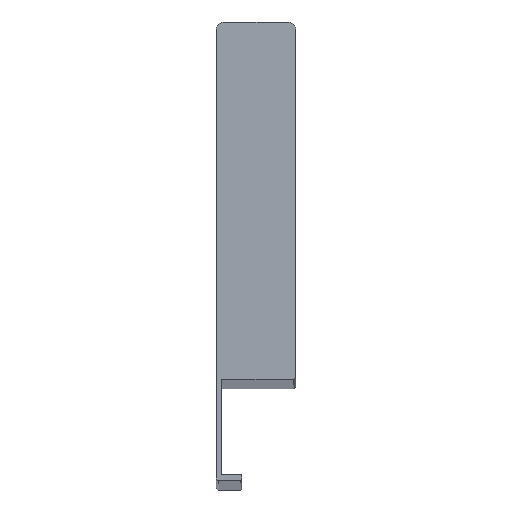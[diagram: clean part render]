
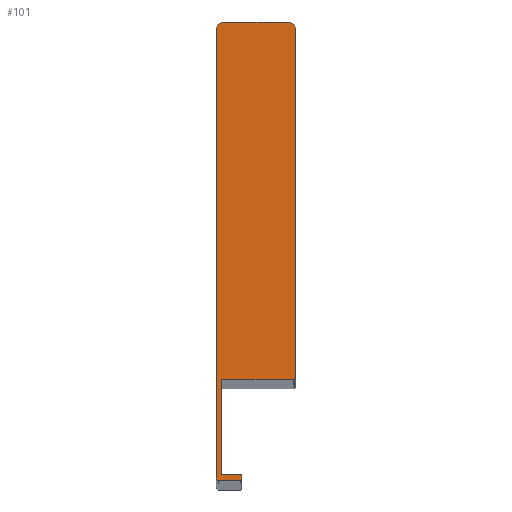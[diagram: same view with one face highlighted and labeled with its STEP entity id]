
A CAD part, top view. The second image highlights one B-rep face of the part: STEP entity #101.
In plain terms, the highlighted planar face has unit normal (0, 0, 1).
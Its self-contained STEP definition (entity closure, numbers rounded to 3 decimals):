
#35 = AXIS2_PLACEMENT_3D ( 'NONE', #488, #497, #441 ) ;
#48 = AXIS2_PLACEMENT_3D ( 'NONE', #404, #406, #408 ) ;
#49 = AXIS2_PLACEMENT_3D ( 'NONE', #532, #533, #555 ) ;
#50 = AXIS2_PLACEMENT_3D ( 'NONE', #548, #543, #544 ) ;
#51 = AXIS2_PLACEMENT_3D ( 'NONE', #383, #402, #405 ) ;
#53 = AXIS2_PLACEMENT_3D ( 'NONE', #515, #566, #370 ) ;
#54 = AXIS2_PLACEMENT_3D ( 'NONE', #491, #565, #552 ) ;
#55 = EDGE_CURVE ( 'NONE', #244, #246, #232, .T. ) ;
#56 = EDGE_CURVE ( 'NONE', #248, #244, #235, .T. ) ;
#57 = EDGE_CURVE ( 'NONE', #242, #241, #231, .T. ) ;
#58 = EDGE_CURVE ( 'NONE', #263, #300, #321, .T. ) ;
#60 = EDGE_CURVE ( 'NONE', #264, #304, #201, .T. ) ;
#61 = EDGE_CURVE ( 'NONE', #245, #241, #195, .T. ) ;
#62 = EDGE_CURVE ( 'NONE', #243, #337, #200, .T. ) ;
#63 = EDGE_CURVE ( 'NONE', #242, #301, #224, .T. ) ;
#64 = EDGE_CURVE ( 'NONE', #266, #264, #199, .T. ) ;
#65 = EDGE_CURVE ( 'NONE', #337, #266, #218, .T. ) ;
#66 = EDGE_CURVE ( 'NONE', #245, #300, #217, .T. ) ;
#67 = EDGE_CURVE ( 'NONE', #243, #263, #223, .T. ) ;
#68 = EDGE_CURVE ( 'NONE', #304, #248, #225, .T. ) ;
#69 = EDGE_CURVE ( 'NONE', #246, #301, #228, .T. ) ;
#101 = ADVANCED_FACE ( 'NONE', ( #162 ), #499, .F. ) ;
#162 = FACE_OUTER_BOUND ( 'NONE', #252, .T. ) ;
#195 = LINE ( 'NONE', #551, #229 ) ;
#199 = LINE ( 'NONE', #473, #220 ) ;
#200 = LINE ( 'NONE', #478, #227 ) ;
#201 = CIRCLE ( 'NONE', #51, 1.5 ) ;
#212 = VECTOR ( 'NONE', #514, 1000. ) ;
#213 = VECTOR ( 'NONE', #547, 1000. ) ;
#214 = VECTOR ( 'NONE', #540, 1000. ) ;
#215 = VECTOR ( 'NONE', #493, 1000. ) ;
#217 = CIRCLE ( 'NONE', #49, 0.2 ) ;
#218 = CIRCLE ( 'NONE', #50, 0.5 ) ;
#220 = VECTOR ( 'NONE', #541, 1000. ) ;
#223 = LINE ( 'NONE', #537, #213 ) ;
#224 = LINE ( 'NONE', #557, #214 ) ;
#225 = LINE ( 'NONE', #556, #212 ) ;
#227 = VECTOR ( 'NONE', #530, 1000. ) ;
#228 = CIRCLE ( 'NONE', #48, 0.5 ) ;
#229 = VECTOR ( 'NONE', #542, 1000. ) ;
#230 = VECTOR ( 'NONE', #563, 1000. ) ;
#231 = CIRCLE ( 'NONE', #53, 0.2 ) ;
#232 = LINE ( 'NONE', #460, #230 ) ;
#235 = CIRCLE ( 'NONE', #54, 1.5 ) ;
#241 = VERTEX_POINT ( 'NONE', #454 ) ;
#242 = VERTEX_POINT ( 'NONE', #448 ) ;
#243 = VERTEX_POINT ( 'NONE', #447 ) ;
#244 = VERTEX_POINT ( 'NONE', #434 ) ;
#245 = VERTEX_POINT ( 'NONE', #433 ) ;
#246 = VERTEX_POINT ( 'NONE', #495 ) ;
#248 = VERTEX_POINT ( 'NONE', #430 ) ;
#252 = EDGE_LOOP ( 'NONE', ( #359, #358, #365, #364, #311, #307, #353, #280, #326, #312, #368, #272, #315, #350 ) ) ;
#263 = VERTEX_POINT ( 'NONE', #439 ) ;
#264 = VERTEX_POINT ( 'NONE', #429 ) ;
#266 = VERTEX_POINT ( 'NONE', #428 ) ;
#272 = ORIENTED_EDGE ( 'NONE', *, *, #67, .F. ) ;
#280 = ORIENTED_EDGE ( 'NONE', *, *, #57, .T. ) ;
#300 = VERTEX_POINT ( 'NONE', #417 ) ;
#301 = VERTEX_POINT ( 'NONE', #413 ) ;
#304 = VERTEX_POINT ( 'NONE', #415 ) ;
#307 = ORIENTED_EDGE ( 'NONE', *, *, #69, .T. ) ;
#311 = ORIENTED_EDGE ( 'NONE', *, *, #55, .T. ) ;
#312 = ORIENTED_EDGE ( 'NONE', *, *, #66, .T. ) ;
#315 = ORIENTED_EDGE ( 'NONE', *, *, #62, .T. ) ;
#321 = LINE ( 'NONE', #506, #215 ) ;
#326 = ORIENTED_EDGE ( 'NONE', *, *, #61, .F. ) ;
#337 = VERTEX_POINT ( 'NONE', #409 ) ;
#350 = ORIENTED_EDGE ( 'NONE', *, *, #65, .T. ) ;
#353 = ORIENTED_EDGE ( 'NONE', *, *, #63, .F. ) ;
#358 = ORIENTED_EDGE ( 'NONE', *, *, #60, .T. ) ;
#359 = ORIENTED_EDGE ( 'NONE', *, *, #64, .T. ) ;
#364 = ORIENTED_EDGE ( 'NONE', *, *, #56, .T. ) ;
#365 = ORIENTED_EDGE ( 'NONE', *, *, #68, .T. ) ;
#368 = ORIENTED_EDGE ( 'NONE', *, *, #58, .F. ) ;
#370 = DIRECTION ( 'NONE',  ( -1., 0., 0. ) ) ;
#383 = CARTESIAN_POINT ( 'NONE',  ( 6.4, 45., 1100. ) ) ;
#402 = DIRECTION ( 'NONE',  ( 0., 0., 1. ) ) ;
#404 = CARTESIAN_POINT ( 'NONE',  ( -7.4, -44.1, 1100. ) ) ;
#405 = DIRECTION ( 'NONE',  ( -1., 0., 0. ) ) ;
#406 = DIRECTION ( 'NONE',  ( 0., 0., 1. ) ) ;
#408 = DIRECTION ( 'NONE',  ( -1., 0., 0. ) ) ;
#409 = CARTESIAN_POINT ( 'NONE',  ( 7.4, -24.5, 1100. ) ) ;
#413 = CARTESIAN_POINT ( 'NONE',  ( -7.4, -44.6, 1100. ) ) ;
#415 = CARTESIAN_POINT ( 'NONE',  ( 6.4, 46.5, 1100. ) ) ;
#417 = CARTESIAN_POINT ( 'NONE',  ( -3., -43.5, 1100. ) ) ;
#428 = CARTESIAN_POINT ( 'NONE',  ( 7.9, -24., 1100. ) ) ;
#429 = CARTESIAN_POINT ( 'NONE',  ( 7.9, 45., 1100. ) ) ;
#430 = CARTESIAN_POINT ( 'NONE',  ( -6.4, 46.5, 1100. ) ) ;
#433 = CARTESIAN_POINT ( 'NONE',  ( -2.8, -43.7, 1100. ) ) ;
#434 = CARTESIAN_POINT ( 'NONE',  ( -7.9, 45., 1100. ) ) ;
#439 = CARTESIAN_POINT ( 'NONE',  ( -6.8, -43.5, 1100. ) ) ;
#441 = DIRECTION ( 'NONE',  ( -1., 0., 0. ) ) ;
#447 = CARTESIAN_POINT ( 'NONE',  ( -6.8, -24.5, 1100. ) ) ;
#448 = CARTESIAN_POINT ( 'NONE',  ( -3., -44.6, 1100. ) ) ;
#454 = CARTESIAN_POINT ( 'NONE',  ( -2.8, -44.4, 1100. ) ) ;
#460 = CARTESIAN_POINT ( 'NONE',  ( -7.9, 24.5, 1100. ) ) ;
#473 = CARTESIAN_POINT ( 'NONE',  ( 7.9, 24.5, 1100. ) ) ;
#478 = CARTESIAN_POINT ( 'NONE',  ( -7.9, -24.5, 1100. ) ) ;
#488 = CARTESIAN_POINT ( 'NONE',  ( 7.9, 24.5, 1100. ) ) ;
#491 = CARTESIAN_POINT ( 'NONE',  ( -6.4, 45., 1100. ) ) ;
#493 = DIRECTION ( 'NONE',  ( 1., 0., 0. ) ) ;
#495 = CARTESIAN_POINT ( 'NONE',  ( -7.9, -44.1, 1100. ) ) ;
#497 = DIRECTION ( 'NONE',  ( 0., 0., -1. ) ) ;
#499 = PLANE ( 'NONE',  #35 ) ;
#506 = CARTESIAN_POINT ( 'NONE',  ( -2.8, -43.5, 1100. ) ) ;
#514 = DIRECTION ( 'NONE',  ( -1., 0., 0. ) ) ;
#515 = CARTESIAN_POINT ( 'NONE',  ( -3., -44.4, 1100. ) ) ;
#530 = DIRECTION ( 'NONE',  ( 1., 0., 0. ) ) ;
#532 = CARTESIAN_POINT ( 'NONE',  ( -3., -43.7, 1100. ) ) ;
#533 = DIRECTION ( 'NONE',  ( 0., 0., 1. ) ) ;
#537 = CARTESIAN_POINT ( 'NONE',  ( -6.8, -43.5, 1100. ) ) ;
#540 = DIRECTION ( 'NONE',  ( -1., 0., 0. ) ) ;
#541 = DIRECTION ( 'NONE',  ( 0., 1., 0. ) ) ;
#542 = DIRECTION ( 'NONE',  ( 0., -1., 0. ) ) ;
#543 = DIRECTION ( 'NONE',  ( 0., 0., 1. ) ) ;
#544 = DIRECTION ( 'NONE',  ( -1., 0., 0. ) ) ;
#547 = DIRECTION ( 'NONE',  ( 0., -1., 0. ) ) ;
#548 = CARTESIAN_POINT ( 'NONE',  ( 7.4, -24., 1100. ) ) ;
#551 = CARTESIAN_POINT ( 'NONE',  ( -2.8, -44.6, 1100. ) ) ;
#552 = DIRECTION ( 'NONE',  ( -1., 0., 0. ) ) ;
#555 = DIRECTION ( 'NONE',  ( -1., 0., 0. ) ) ;
#556 = CARTESIAN_POINT ( 'NONE',  ( -7.9, 46.5, 1100. ) ) ;
#557 = CARTESIAN_POINT ( 'NONE',  ( -7.9, -44.6, 1100. ) ) ;
#563 = DIRECTION ( 'NONE',  ( 0., -1., 0. ) ) ;
#565 = DIRECTION ( 'NONE',  ( 0., 0., 1. ) ) ;
#566 = DIRECTION ( 'NONE',  ( 0., 0., 1. ) ) ;
